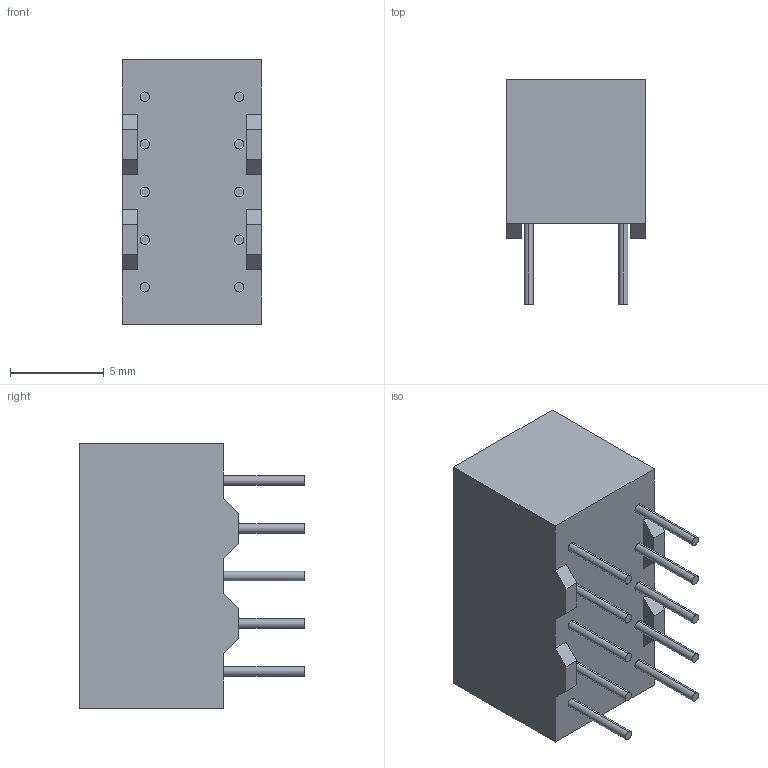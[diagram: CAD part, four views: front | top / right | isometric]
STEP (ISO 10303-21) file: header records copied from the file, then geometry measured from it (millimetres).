
FILE_DESCRIPTION (( 'STEP AP214' ), '1' );
FILE_NAME ('LSD3165.STEP', '2013-03-28T12:33:10', ( 'Tester2' ), ( '' ), 'SwSTEP 2.0', 'SolidWorks 2012', '' );
FILE_SCHEMA (( 'AUTOMOTIVE_DESIGN' ));
Length unit declared in the file: millimetre
Products named in the file (1): LSD3165
Bounding box: 7.45 x 11.98 x 14.1 mm (x, y, z)
Volume: 819.3 mm3; surface area: 633 mm2
Topology: 1 solids, 1 shells, 101 faces, 243 edges, 162 vertices
Faces by surface type: plane 74, cylinder 27
Entity records: 3845 total; most frequent: CARTESIAN_POINT 507, DIRECTION 501, ORIENTED_EDGE 486, EDGE_CURVE 243, VECTOR 189, LINE 189, VERTEX_POINT 162, AXIS2_PLACEMENT_3D 156
